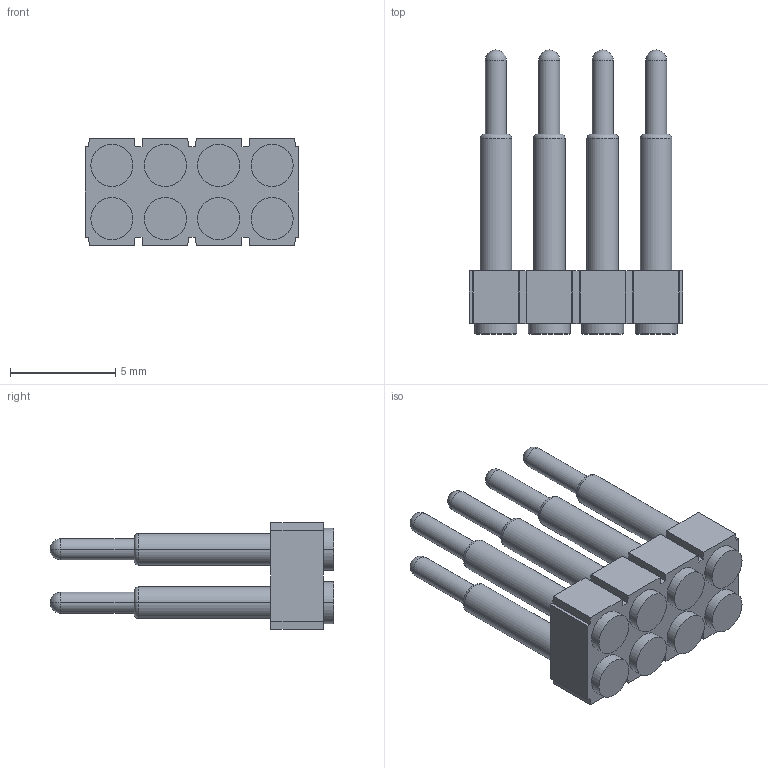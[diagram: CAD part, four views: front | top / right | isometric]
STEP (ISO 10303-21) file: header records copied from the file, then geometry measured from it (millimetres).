
FILE_DESCRIPTION((''),'2;1');
FILE_NAME('NC4476-08RA_ASM','2022-03-02T',('lenovo'),(''),'PRO/ENGINEER BY PARAMETRIC TECHNOLOGY CORPORATION, 2008380','PRO/ENGINEER BY PARAMETRIC TECHNOLOGY CORPORATION, 2008380','');
FILE_SCHEMA(('CONFIG_CONTROL_DESIGN'));
Length unit declared in the file: millimetre
Products named in the file (3): 8P; 4476; NC4476-08RA_ASM
Assembly tree (9 placements, depth 2):
  NC4476-08RA_ASM
    8P
    4476  x8
Bounding box: 10.16 x 13.5 x 5.08 mm (x, y, z)
Volume: 254.5 mm3; surface area: 759.1 mm2
Topology: 9 solids, 9 shells, 158 faces, 364 edges, 224 vertices
Faces by surface type: cylinder 64, plane 62, torus 16, sphere 16
Entity records: 2276 total; most frequent: DIRECTION 388, CARTESIAN_POINT 378, ORIENTED_EDGE 360, EDGE_CURVE 180, VECTOR 130, LINE 130, AXIS2_PLACEMENT_3D 129, VERTEX_POINT 119
